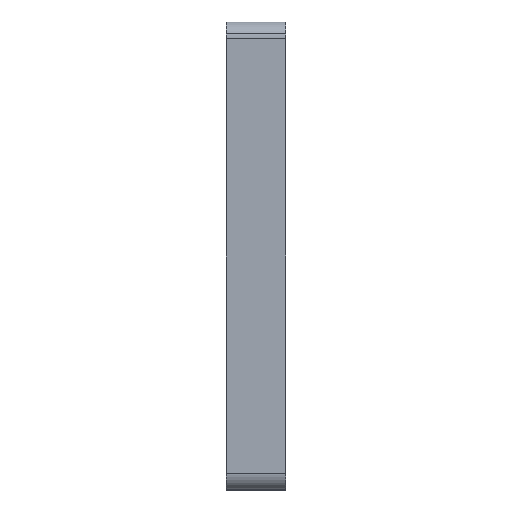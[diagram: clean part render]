
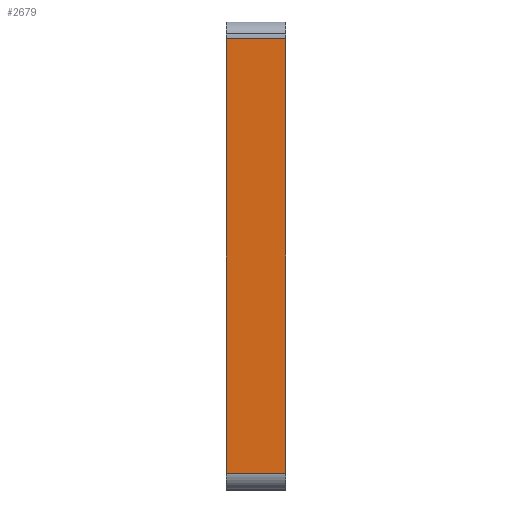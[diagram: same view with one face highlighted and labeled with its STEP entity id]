
A CAD part, left-side view. The second image highlights one B-rep face of the part: STEP entity #2679.
In plain terms, the highlighted planar face has unit normal (-1, 0, 0).
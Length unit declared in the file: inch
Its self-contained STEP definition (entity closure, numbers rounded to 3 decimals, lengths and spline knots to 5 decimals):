
#64 = DIRECTION ( 'NONE',  ( 0., 0., -1. ) ) ;
#65 = EDGE_CURVE ( 'NONE', #2764, #2257, #983, .T. ) ;
#87 = EDGE_CURVE ( 'NONE', #2305, #994, #1465, .T. ) ;
#126 = AXIS2_PLACEMENT_3D ( 'NONE', #736, #1253, #64 ) ;
#165 = CARTESIAN_POINT ( 'NONE',  ( -17.52371, 0., -11.63466 ) ) ;
#311 = VECTOR ( 'NONE', #1762, 39.37008 ) ;
#342 = EDGE_CURVE ( 'NONE', #994, #2257, #1811, .T. ) ;
#542 = CARTESIAN_POINT ( 'NONE',  ( -17.52371, 3.175, -11.63466 ) ) ;
#552 = CARTESIAN_POINT ( 'NONE',  ( -17.52371, 46.55278, 11.63466 ) ) ;
#610 = LINE ( 'NONE', #2220, #311 ) ;
#666 = EDGE_CURVE ( 'NONE', #2305, #2764, #610, .T. ) ;
#736 = CARTESIAN_POINT ( 'NONE',  ( -17.52371, 46.55278, -11.63466 ) ) ;
#978 = FACE_OUTER_BOUND ( 'NONE', #1064, .T. ) ;
#983 = LINE ( 'NONE', #552, #1189 ) ;
#994 = VERTEX_POINT ( 'NONE', #165 ) ;
#1064 = EDGE_LOOP ( 'NONE', ( #2028, #2323, #2633, #1591 ) ) ;
#1091 = VECTOR ( 'NONE', #2997, 39.37008 ) ;
#1189 = VECTOR ( 'NONE', #2833, 39.37008 ) ;
#1253 = DIRECTION ( 'NONE',  ( 1., 0., 0. ) ) ;
#1257 = DIRECTION ( 'NONE',  ( 0., -1., 0. ) ) ;
#1465 = LINE ( 'NONE', #1480, #2878 ) ;
#1473 = PLANE ( 'NONE',  #126 ) ;
#1480 = CARTESIAN_POINT ( 'NONE',  ( -17.52371, 46.55278, -11.63466 ) ) ;
#1591 = ORIENTED_EDGE ( 'NONE', *, *, #65, .F. ) ;
#1708 = CARTESIAN_POINT ( 'NONE',  ( -17.52371, 0., 11.63466 ) ) ;
#1762 = DIRECTION ( 'NONE',  ( 0., 0., 1. ) ) ;
#1811 = LINE ( 'NONE', #1844, #1091 ) ;
#1844 = CARTESIAN_POINT ( 'NONE',  ( -17.52371, 0., -11.63466 ) ) ;
#1975 = CARTESIAN_POINT ( 'NONE',  ( -17.52371, 3.175, 11.63466 ) ) ;
#2028 = ORIENTED_EDGE ( 'NONE', *, *, #666, .F. ) ;
#2220 = CARTESIAN_POINT ( 'NONE',  ( -17.52371, 3.175, -11.63466 ) ) ;
#2257 = VERTEX_POINT ( 'NONE', #1708 ) ;
#2305 = VERTEX_POINT ( 'NONE', #542 ) ;
#2323 = ORIENTED_EDGE ( 'NONE', *, *, #87, .T. ) ;
#2633 = ORIENTED_EDGE ( 'NONE', *, *, #342, .T. ) ;
#2679 = ADVANCED_FACE ( 'NONE', ( #978 ), #1473, .F. ) ;
#2764 = VERTEX_POINT ( 'NONE', #1975 ) ;
#2833 = DIRECTION ( 'NONE',  ( 0., -1., 0. ) ) ;
#2878 = VECTOR ( 'NONE', #1257, 39.37008 ) ;
#2997 = DIRECTION ( 'NONE',  ( 0., 0., 1. ) ) ;
